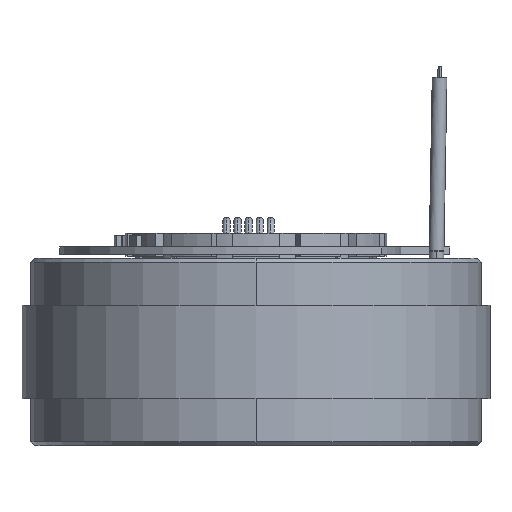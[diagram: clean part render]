
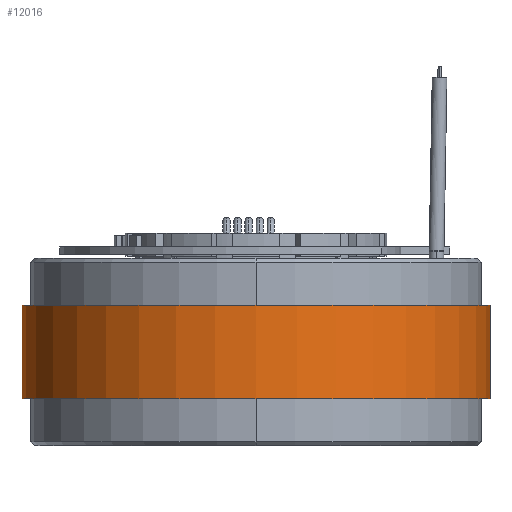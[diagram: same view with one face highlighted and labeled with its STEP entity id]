
A CAD part, left-side view. The second image highlights one B-rep face of the part: STEP entity #12016.
In plain terms, the highlighted cylindrical face has radius 63.5 mm (diameter 127 mm), a partial arc.
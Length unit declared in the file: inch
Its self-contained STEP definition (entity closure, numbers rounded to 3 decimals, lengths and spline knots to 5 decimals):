
#346=CARTESIAN_POINT('',(0.,0.,1.));
#347=DIRECTION('',(0.,0.,-1.));
#348=DIRECTION('',(0.,-1.,0.));
#349=AXIS2_PLACEMENT_3D('',#346,#347,#348);
#366=DIRECTION('',(0.,0.,1.));
#367=VECTOR('',#366,1.);
#368=CARTESIAN_POINT('',(0.,-2.5,0.));
#369=LINE('',#368,#367);
#370=CARTESIAN_POINT('',(0.,0.,0.));
#371=DIRECTION('',(0.,0.,-1.));
#372=DIRECTION('',(0.,-1.,0.));
#373=AXIS2_PLACEMENT_3D('',#370,#371,#372);
#390=DIRECTION('',(0.,0.,1.));
#391=VECTOR('',#390,1.);
#392=CARTESIAN_POINT('',(0.,2.5,0.));
#393=LINE('',#392,#391);
#9075=CARTESIAN_POINT('',(0.,-2.5,0.));
#9076=CARTESIAN_POINT('',(0.,2.5,0.));
#9077=VERTEX_POINT('',#9075);
#9078=VERTEX_POINT('',#9076);
#9079=CARTESIAN_POINT('',(0.,-2.5,1.));
#9080=CARTESIAN_POINT('',(0.,2.5,1.));
#9081=VERTEX_POINT('',#9079);
#9082=VERTEX_POINT('',#9080);
#12002=CARTESIAN_POINT('',(0.,0.,0.));
#12003=DIRECTION('',(0.,0.,-1.));
#12004=DIRECTION('',(0.,-1.,0.));
#12005=AXIS2_PLACEMENT_3D('',#12002,#12003,#12004);
#12006=CYLINDRICAL_SURFACE('',#12005,2.5);
#12008=ORIENTED_EDGE('',*,*,#12007,.T.);
#12010=ORIENTED_EDGE('',*,*,#12009,.T.);
#12011=ORIENTED_EDGE('',*,*,#11990,.F.);
#12013=ORIENTED_EDGE('',*,*,#12012,.F.);
#12014=EDGE_LOOP('',(#12008,#12010,#12011,#12013));
#12015=FACE_OUTER_BOUND('',#12014,.F.);
#12016=ADVANCED_FACE('',(#12015),#12006,.T.);
#350=CIRCLE('',#349,2.5);
#374=CIRCLE('',#373,2.5);
#11990=EDGE_CURVE('',#9081,#9082,#350,.T.);
#12007=EDGE_CURVE('',#9077,#9078,#374,.T.);
#12009=EDGE_CURVE('',#9078,#9082,#393,.T.);
#12012=EDGE_CURVE('',#9077,#9081,#369,.T.);
